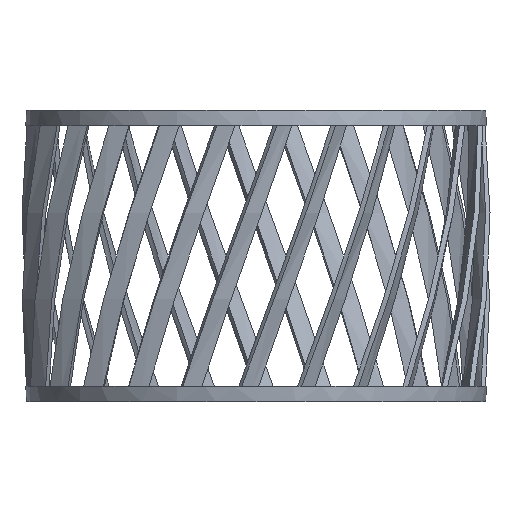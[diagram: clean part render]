
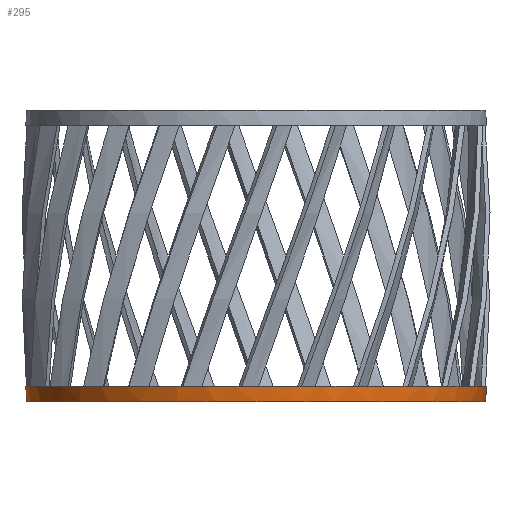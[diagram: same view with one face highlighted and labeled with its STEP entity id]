
A CAD part, front view. The second image highlights one B-rep face of the part: STEP entity #295.
In plain terms, the highlighted conical face has half-angle 4.379 degrees and reference radius 102.221 mm.
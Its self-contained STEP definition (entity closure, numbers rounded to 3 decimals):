
#21 = EDGE_CURVE('',#22,#22,#24,.T.);
#22 = VERTEX_POINT('',#23);
#23 = CARTESIAN_POINT('',(102.221,0.,130.));
#24 = SURFACE_CURVE('',#25,(#30,#42),.PCURVE_S1.);
#25 = CIRCLE('',#26,102.221);
#26 = AXIS2_PLACEMENT_3D('',#27,#28,#29);
#27 = CARTESIAN_POINT('',(0.,0.,130.));
#28 = DIRECTION('',(0.,0.,1.));
#29 = DIRECTION('',(1.,0.,-0.));
#30 = PCURVE('',#31,#36);
#31 = PLANE('',#32);
#32 = AXIS2_PLACEMENT_3D('',#33,#34,#35);
#33 = CARTESIAN_POINT('',(0.,0.,130.));
#34 = DIRECTION('',(0.,0.,1.));
#35 = DIRECTION('',(1.,0.,-0.));
#36 = DEFINITIONAL_REPRESENTATION('',(#37),#41);
#37 = CIRCLE('',#38,102.221);
#38 = AXIS2_PLACEMENT_2D('',#39,#40);
#39 = CARTESIAN_POINT('',(0.,0.));
#40 = DIRECTION('',(1.,-0.));
#41 = ( GEOMETRIC_REPRESENTATION_CONTEXT(2) 
PARAMETRIC_REPRESENTATION_CONTEXT() REPRESENTATION_CONTEXT('2D SPACE',''
  ) );
#42 = PCURVE('',#43,#48);
#43 = CONICAL_SURFACE('',#44,102.221,0.076);
#44 = AXIS2_PLACEMENT_3D('',#45,#46,#47);
#45 = CARTESIAN_POINT('',(0.,0.,130.));
#46 = DIRECTION('',(0.,0.,1.));
#47 = DIRECTION('',(1.,0.,-0.));
#48 = DEFINITIONAL_REPRESENTATION('',(#49),#53);
#49 = LINE('',#50,#51);
#50 = CARTESIAN_POINT('',(0.,0.));
#51 = VECTOR('',#52,1.);
#52 = DIRECTION('',(1.,0.));
#53 = ( GEOMETRIC_REPRESENTATION_CONTEXT(2) 
PARAMETRIC_REPRESENTATION_CONTEXT() REPRESENTATION_CONTEXT('2D SPACE',''
  ) );
#295 = ADVANCED_FACE('',(#296),#43,.T.);
#296 = FACE_BOUND('',#297,.T.);
#297 = EDGE_LOOP('',(#298,#299,#322,#349));
#298 = ORIENTED_EDGE('',*,*,#21,.T.);
#299 = ORIENTED_EDGE('',*,*,#300,.T.);
#300 = EDGE_CURVE('',#22,#301,#303,.T.);
#301 = VERTEX_POINT('',#302);
#302 = CARTESIAN_POINT('',(102.757,0.,137.));
#303 = SEAM_CURVE('',#304,(#308,#315),.PCURVE_S1.);
#304 = LINE('',#305,#306);
#305 = CARTESIAN_POINT('',(102.221,0.,130.));
#306 = VECTOR('',#307,1.);
#307 = DIRECTION('',(0.076,0.,0.997));
#308 = PCURVE('',#43,#309);
#309 = DEFINITIONAL_REPRESENTATION('',(#310),#314);
#310 = LINE('',#311,#312);
#311 = CARTESIAN_POINT('',(0.,0.));
#312 = VECTOR('',#313,1.);
#313 = DIRECTION('',(0.,1.));
#314 = ( GEOMETRIC_REPRESENTATION_CONTEXT(2) 
PARAMETRIC_REPRESENTATION_CONTEXT() REPRESENTATION_CONTEXT('2D SPACE',''
  ) );
#315 = PCURVE('',#43,#316);
#316 = DEFINITIONAL_REPRESENTATION('',(#317),#321);
#317 = LINE('',#318,#319);
#318 = CARTESIAN_POINT('',(6.283,0.));
#319 = VECTOR('',#320,1.);
#320 = DIRECTION('',(0.,1.));
#321 = ( GEOMETRIC_REPRESENTATION_CONTEXT(2) 
PARAMETRIC_REPRESENTATION_CONTEXT() REPRESENTATION_CONTEXT('2D SPACE',''
  ) );
#322 = ORIENTED_EDGE('',*,*,#323,.F.);
#323 = EDGE_CURVE('',#301,#301,#324,.T.);
#324 = SURFACE_CURVE('',#325,(#330,#337),.PCURVE_S1.);
#325 = CIRCLE('',#326,102.757);
#326 = AXIS2_PLACEMENT_3D('',#327,#328,#329);
#327 = CARTESIAN_POINT('',(0.,0.,137.));
#328 = DIRECTION('',(0.,0.,1.));
#329 = DIRECTION('',(1.,0.,-0.));
#330 = PCURVE('',#43,#331);
#331 = DEFINITIONAL_REPRESENTATION('',(#332),#336);
#332 = LINE('',#333,#334);
#333 = CARTESIAN_POINT('',(0.,7.));
#334 = VECTOR('',#335,1.);
#335 = DIRECTION('',(1.,0.));
#336 = ( GEOMETRIC_REPRESENTATION_CONTEXT(2) 
PARAMETRIC_REPRESENTATION_CONTEXT() REPRESENTATION_CONTEXT('2D SPACE',''
  ) );
#337 = PCURVE('',#338,#343);
#338 = PLANE('',#339);
#339 = AXIS2_PLACEMENT_3D('',#340,#341,#342);
#340 = CARTESIAN_POINT('',(0.,0.,137.));
#341 = DIRECTION('',(0.,0.,1.));
#342 = DIRECTION('',(1.,0.,-0.));
#343 = DEFINITIONAL_REPRESENTATION('',(#344),#348);
#344 = CIRCLE('',#345,102.757);
#345 = AXIS2_PLACEMENT_2D('',#346,#347);
#346 = CARTESIAN_POINT('',(0.,0.));
#347 = DIRECTION('',(1.,0.));
#348 = ( GEOMETRIC_REPRESENTATION_CONTEXT(2) 
PARAMETRIC_REPRESENTATION_CONTEXT() REPRESENTATION_CONTEXT('2D SPACE',''
  ) );
#349 = ORIENTED_EDGE('',*,*,#300,.F.);
